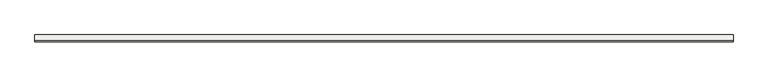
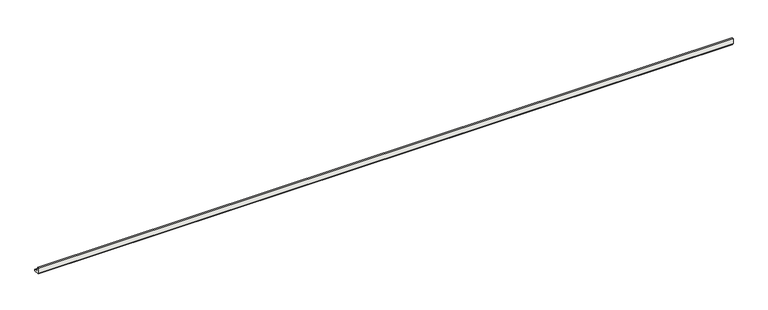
"""IFC4 building model written with IfcOpenShell, lengths in millimetres: slab geometry, ROSA GRES_188 : Pieza 188_Pietro_White_Anti-Slip."""

from ifc_helpers import new_model, si_unit, point, frame, frame_2d, origin, place, context, project, spatial, polyline, circle_curve, trimmed, segment, composite_curve, outline, extrude, source, transform, mapped, element, save


def slab_4f7eb371(model_context):
    return source(origin(), model_context, "Body", "SweptSolid", [
        extrude(outline(composite_curve([segment(polyline([(0.0, 8.7114978), (0.0, 40.0), (9.9734114, 40.0)]), True, "CONTINUOUS"), segment(trimmed(circle_curve(frame_2d((39.9955547, 39.9955547)), 30.0221435), [point((9.9734114, 40.0))], [point((40.0, 9.9734114))], True, "CARTESIAN"), True, "CONTINUOUS"), segment(polyline([(40.0, 9.9734114), (40.0, 0.0), (8.7114978, 0.0), (0.0, 8.7114978)]), True, "CONTINUOUS")], self_intersect=False)), frame((0.0, 0.0, 0.0), z_axis=(1.0, 0.0, 0.0), x_axis=(0.0, 1.0, 0.0)), (0.0, 0.0, 1.0), 4019.9468229),
    ])


if __name__ == "__main__":
    model = new_model("IFC4")
    model_context = context("Model", 3, world=origin())
    ifc_project = project(units=[si_unit("LENGTHUNIT", "METRE", prefix="MILLI")], contexts=[model_context])
    site = spatial("IfcSite", under=ifc_project)
    building = spatial("IfcBuilding", under=site)
    placement = place(None, origin())
    slab_shape = slab_4f7eb371(model_context)
    element("IfcSlab", 1, ObjectType="ROSA GRES_188 : Pieza 188_Pietro_White_Anti-Slip", at=placement, inside=building, context=model_context, shape_type="MappedRepresentation", body=[
        mapped(slab_shape, transform((0.0, 0.0, 0.0), x_axis=(1.0, 0.0, 0.0), y_axis=(0.0, 1.0, 0.0), z_axis=(0.0, 0.0, 1.0))),
    ])
    save(model, "model.ifc")
